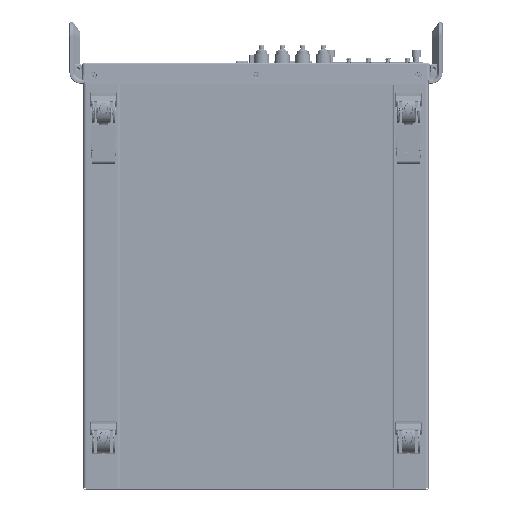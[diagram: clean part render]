
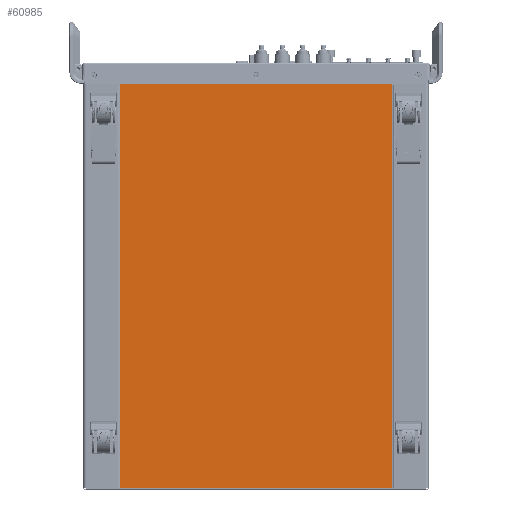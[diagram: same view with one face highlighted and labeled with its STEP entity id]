
A CAD part, front view. The second image highlights one B-rep face of the part: STEP entity #60985.
In plain terms, the highlighted planar face has unit normal (0, -1, 0).
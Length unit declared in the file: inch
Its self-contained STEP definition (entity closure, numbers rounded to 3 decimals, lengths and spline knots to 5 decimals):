
#58309=DIRECTION('',(-1.,0.,0.));
#58310=VECTOR('',#58309,13.25);
#58311=CARTESIAN_POINT('',(6.625,-2.545,-2.48));
#58312=LINE('',#58311,#58310);
#58357=DIRECTION('',(0.,0.,-1.));
#58358=VECTOR('',#58357,19.63);
#58359=CARTESIAN_POINT('',(-6.625,-2.545,17.15));
#58360=LINE('',#58359,#58358);
#58361=CARTESIAN_POINT('',(-6.563,-2.545,17.288));
#58362=DIRECTION('',(0.,-1.,0.));
#58363=DIRECTION('',(0.,0.,1.));
#58364=AXIS2_PLACEMENT_3D('',#58361,#58362,#58363);
#58366=DIRECTION('',(-1.,0.,0.));
#58367=VECTOR('',#58366,3.488);
#58368=CARTESIAN_POINT('',(-3.075,-2.545,17.35));
#58369=LINE('',#58368,#58367);
#58370=DIRECTION('',(0.,0.,1.));
#58371=VECTOR('',#58370,0.138);
#58372=CARTESIAN_POINT('',(-3.075,-2.545,17.35));
#58373=LINE('',#58372,#58371);
#58374=CARTESIAN_POINT('',(-3.013,-2.545,17.488));
#58375=DIRECTION('',(0.,-1.,0.));
#58376=DIRECTION('',(0.,0.,1.));
#58377=AXIS2_PLACEMENT_3D('',#58374,#58375,#58376);
#58379=DIRECTION('',(1.,0.,0.));
#58380=VECTOR('',#58379,0.376);
#58381=CARTESIAN_POINT('',(-3.013,-2.545,17.55));
#58382=LINE('',#58381,#58380);
#58383=CARTESIAN_POINT('',(-2.637,-2.545,17.488));
#58384=DIRECTION('',(0.,-1.,0.));
#58385=DIRECTION('',(1.,0.,0.));
#58386=AXIS2_PLACEMENT_3D('',#58383,#58384,#58385);
#58388=DIRECTION('',(0.,0.,-1.));
#58389=VECTOR('',#58388,0.138);
#58390=CARTESIAN_POINT('',(-2.575,-2.545,17.488));
#58391=LINE('',#58390,#58389);
#58392=DIRECTION('',(-1.,0.,0.));
#58393=VECTOR('',#58392,5.15);
#58394=CARTESIAN_POINT('',(2.575,-2.545,17.35));
#58395=LINE('',#58394,#58393);
#58396=DIRECTION('',(0.,0.,1.));
#58397=VECTOR('',#58396,0.138);
#58398=CARTESIAN_POINT('',(2.575,-2.545,17.35));
#58399=LINE('',#58398,#58397);
#58400=CARTESIAN_POINT('',(2.637,-2.545,17.488));
#58401=DIRECTION('',(0.,-1.,0.));
#58402=DIRECTION('',(0.,0.,1.));
#58403=AXIS2_PLACEMENT_3D('',#58400,#58401,#58402);
#58405=DIRECTION('',(1.,0.,0.));
#58406=VECTOR('',#58405,0.376);
#58407=CARTESIAN_POINT('',(2.637,-2.545,17.55));
#58408=LINE('',#58407,#58406);
#58409=CARTESIAN_POINT('',(3.013,-2.545,17.488));
#58410=DIRECTION('',(0.,-1.,0.));
#58411=DIRECTION('',(1.,0.,0.));
#58412=AXIS2_PLACEMENT_3D('',#58409,#58410,#58411);
#58414=DIRECTION('',(0.,0.,-1.));
#58415=VECTOR('',#58414,0.138);
#58416=CARTESIAN_POINT('',(3.075,-2.545,17.488));
#58417=LINE('',#58416,#58415);
#58418=DIRECTION('',(-1.,0.,0.));
#58419=VECTOR('',#58418,3.488);
#58420=CARTESIAN_POINT('',(6.563,-2.545,17.35));
#58421=LINE('',#58420,#58419);
#58422=CARTESIAN_POINT('',(6.563,-2.545,17.288));
#58423=DIRECTION('',(0.,-1.,0.));
#58424=DIRECTION('',(1.,0.,0.));
#58425=AXIS2_PLACEMENT_3D('',#58422,#58423,#58424);
#58427=DIRECTION('',(0.,0.,-1.));
#58428=VECTOR('',#58427,0.138);
#58429=CARTESIAN_POINT('',(6.625,-2.545,17.288));
#58430=LINE('',#58429,#58428);
#58431=DIRECTION('',(0.,0.,-1.));
#58432=VECTOR('',#58431,0.138);
#58433=CARTESIAN_POINT('',(-6.625,-2.545,17.288));
#58434=LINE('',#58433,#58432);
#58435=DIRECTION('',(0.,0.,1.));
#58436=VECTOR('',#58435,0.028);
#58437=CARTESIAN_POINT('',(2.961,-2.545,17.361));
#58438=LINE('',#58437,#58436);
#58439=CARTESIAN_POINT('',(2.825,-2.545,17.389));
#58440=DIRECTION('',(0.,-1.,0.));
#58441=DIRECTION('',(1.,0.,0.));
#58442=AXIS2_PLACEMENT_3D('',#58439,#58440,#58441);
#58444=DIRECTION('',(0.,0.,-1.));
#58445=VECTOR('',#58444,0.028);
#58446=CARTESIAN_POINT('',(2.689,-2.545,17.389));
#58447=LINE('',#58446,#58445);
#58448=CARTESIAN_POINT('',(2.825,-2.545,17.361));
#58449=DIRECTION('',(0.,-1.,0.));
#58450=DIRECTION('',(-1.,0.,0.));
#58451=AXIS2_PLACEMENT_3D('',#58448,#58449,#58450);
#58453=DIRECTION('',(0.,0.,1.));
#58454=VECTOR('',#58453,0.028);
#58455=CARTESIAN_POINT('',(-2.689,-2.545,17.361));
#58456=LINE('',#58455,#58454);
#58457=CARTESIAN_POINT('',(-2.825,-2.545,17.389));
#58458=DIRECTION('',(0.,-1.,0.));
#58459=DIRECTION('',(1.,0.,0.));
#58460=AXIS2_PLACEMENT_3D('',#58457,#58458,#58459);
#58462=DIRECTION('',(0.,0.,-1.));
#58463=VECTOR('',#58462,0.028);
#58464=CARTESIAN_POINT('',(-2.961,-2.545,17.389));
#58465=LINE('',#58464,#58463);
#58466=CARTESIAN_POINT('',(-2.825,-2.545,17.361));
#58467=DIRECTION('',(0.,-1.,0.));
#58468=DIRECTION('',(-1.,0.,0.));
#58469=AXIS2_PLACEMENT_3D('',#58466,#58467,#58468);
#58733=DIRECTION('',(0.,0.,1.));
#58734=VECTOR('',#58733,19.63);
#58735=CARTESIAN_POINT('',(6.625,-2.545,-2.48));
#58736=LINE('',#58735,#58734);
#60089=CARTESIAN_POINT('',(-6.625,-2.545,-2.48));
#60091=VERTEX_POINT('',#60089);
#60093=CARTESIAN_POINT('',(6.625,-2.545,-2.48));
#60095=VERTEX_POINT('',#60093);
#60161=CARTESIAN_POINT('',(6.625,-2.545,17.15));
#60163=VERTEX_POINT('',#60161);
#60171=CARTESIAN_POINT('',(-6.625,-2.545,17.15));
#60173=VERTEX_POINT('',#60171);
#60202=CARTESIAN_POINT('',(2.575,-2.545,17.35));
#60204=VERTEX_POINT('',#60202);
#60206=CARTESIAN_POINT('',(3.075,-2.545,17.35));
#60208=VERTEX_POINT('',#60206);
#60210=CARTESIAN_POINT('',(-3.075,-2.545,17.35));
#60212=VERTEX_POINT('',#60210);
#60214=CARTESIAN_POINT('',(-2.575,-2.545,17.35));
#60216=VERTEX_POINT('',#60214);
#60305=CARTESIAN_POINT('',(-6.563,-2.545,17.35));
#60306=CARTESIAN_POINT('',(-6.625,-2.545,17.288));
#60307=VERTEX_POINT('',#60305);
#60308=VERTEX_POINT('',#60306);
#60317=CARTESIAN_POINT('',(-3.013,-2.545,17.55));
#60318=VERTEX_POINT('',#60317);
#60319=CARTESIAN_POINT('',(-3.075,-2.545,17.488));
#60320=VERTEX_POINT('',#60319);
#60325=CARTESIAN_POINT('',(-2.575,-2.545,17.488));
#60326=VERTEX_POINT('',#60325);
#60327=CARTESIAN_POINT('',(-2.637,-2.545,17.55));
#60328=VERTEX_POINT('',#60327);
#60333=CARTESIAN_POINT('',(2.637,-2.545,17.55));
#60334=VERTEX_POINT('',#60333);
#60335=CARTESIAN_POINT('',(2.575,-2.545,17.488));
#60336=VERTEX_POINT('',#60335);
#60341=CARTESIAN_POINT('',(3.075,-2.545,17.488));
#60342=VERTEX_POINT('',#60341);
#60343=CARTESIAN_POINT('',(3.013,-2.545,17.55));
#60344=VERTEX_POINT('',#60343);
#60345=CARTESIAN_POINT('',(6.625,-2.545,17.288));
#60346=CARTESIAN_POINT('',(6.563,-2.545,17.35));
#60347=VERTEX_POINT('',#60345);
#60348=VERTEX_POINT('',#60346);
#60489=CARTESIAN_POINT('',(2.961,-2.545,17.361));
#60491=VERTEX_POINT('',#60489);
#60493=CARTESIAN_POINT('',(2.961,-2.545,17.389));
#60495=VERTEX_POINT('',#60493);
#60497=CARTESIAN_POINT('',(2.689,-2.545,17.389));
#60499=VERTEX_POINT('',#60497);
#60501=CARTESIAN_POINT('',(2.689,-2.545,17.361));
#60503=VERTEX_POINT('',#60501);
#60513=CARTESIAN_POINT('',(-2.689,-2.545,17.361));
#60515=VERTEX_POINT('',#60513);
#60517=CARTESIAN_POINT('',(-2.689,-2.545,17.389));
#60519=VERTEX_POINT('',#60517);
#60521=CARTESIAN_POINT('',(-2.961,-2.545,17.389));
#60523=VERTEX_POINT('',#60521);
#60525=CARTESIAN_POINT('',(-2.961,-2.545,17.361));
#60527=VERTEX_POINT('',#60525);
#60920=CARTESIAN_POINT('',(0.,-2.545,0.));
#60921=DIRECTION('',(0.,1.,0.));
#60922=DIRECTION('',(1.,0.,0.));
#60923=AXIS2_PLACEMENT_3D('',#60920,#60921,#60922);
#60924=PLANE('',#60923);
#60926=ORIENTED_EDGE('',*,*,#60925,.F.);
#60928=ORIENTED_EDGE('',*,*,#60927,.F.);
#60930=ORIENTED_EDGE('',*,*,#60929,.T.);
#60932=ORIENTED_EDGE('',*,*,#60931,.F.);
#60934=ORIENTED_EDGE('',*,*,#60933,.T.);
#60936=ORIENTED_EDGE('',*,*,#60935,.F.);
#60938=ORIENTED_EDGE('',*,*,#60937,.T.);
#60940=ORIENTED_EDGE('',*,*,#60939,.F.);
#60942=ORIENTED_EDGE('',*,*,#60941,.T.);
#60944=ORIENTED_EDGE('',*,*,#60943,.F.);
#60946=ORIENTED_EDGE('',*,*,#60945,.T.);
#60948=ORIENTED_EDGE('',*,*,#60947,.F.);
#60950=ORIENTED_EDGE('',*,*,#60949,.T.);
#60952=ORIENTED_EDGE('',*,*,#60951,.F.);
#60954=ORIENTED_EDGE('',*,*,#60953,.F.);
#60956=ORIENTED_EDGE('',*,*,#60955,.T.);
#60958=ORIENTED_EDGE('',*,*,#60957,.F.);
#60959=ORIENTED_EDGE('',*,*,#60843,.T.);
#60960=ORIENTED_EDGE('',*,*,#60912,.F.);
#60962=ORIENTED_EDGE('',*,*,#60961,.F.);
#60963=EDGE_LOOP('',(#60926,#60928,#60930,#60932,#60934,#60936,#60938,#60940,
#60942,#60944,#60946,#60948,#60950,#60952,#60954,#60956,#60958,#60959,#60960,
#60962));
#60964=FACE_OUTER_BOUND('',#60963,.F.);
#60966=ORIENTED_EDGE('',*,*,#60965,.T.);
#60968=ORIENTED_EDGE('',*,*,#60967,.T.);
#60970=ORIENTED_EDGE('',*,*,#60969,.T.);
#60972=ORIENTED_EDGE('',*,*,#60971,.T.);
#60973=EDGE_LOOP('',(#60966,#60968,#60970,#60972));
#60974=FACE_BOUND('',#60973,.F.);
#60976=ORIENTED_EDGE('',*,*,#60975,.T.);
#60978=ORIENTED_EDGE('',*,*,#60977,.T.);
#60980=ORIENTED_EDGE('',*,*,#60979,.T.);
#60982=ORIENTED_EDGE('',*,*,#60981,.T.);
#60983=EDGE_LOOP('',(#60976,#60978,#60980,#60982));
#60984=FACE_BOUND('',#60983,.F.);
#60985=ADVANCED_FACE('',(#60964,#60974,#60984),#60924,.F.);
#58365=CIRCLE('',#58364,0.062);
#58378=CIRCLE('',#58377,0.062);
#58387=CIRCLE('',#58386,0.062);
#58404=CIRCLE('',#58403,0.062);
#58413=CIRCLE('',#58412,0.062);
#58426=CIRCLE('',#58425,0.062);
#58443=CIRCLE('',#58442,0.136);
#58452=CIRCLE('',#58451,0.136);
#58461=CIRCLE('',#58460,0.136);
#58470=CIRCLE('',#58469,0.136);
#60843=EDGE_CURVE('',#60095,#60091,#58312,.T.);
#60912=EDGE_CURVE('',#60173,#60091,#58360,.T.);
#60925=EDGE_CURVE('',#60307,#60308,#58365,.T.);
#60927=EDGE_CURVE('',#60212,#60307,#58369,.T.);
#60929=EDGE_CURVE('',#60212,#60320,#58373,.T.);
#60931=EDGE_CURVE('',#60318,#60320,#58378,.T.);
#60933=EDGE_CURVE('',#60318,#60328,#58382,.T.);
#60935=EDGE_CURVE('',#60326,#60328,#58387,.T.);
#60937=EDGE_CURVE('',#60326,#60216,#58391,.T.);
#60939=EDGE_CURVE('',#60204,#60216,#58395,.T.);
#60941=EDGE_CURVE('',#60204,#60336,#58399,.T.);
#60943=EDGE_CURVE('',#60334,#60336,#58404,.T.);
#60945=EDGE_CURVE('',#60334,#60344,#58408,.T.);
#60947=EDGE_CURVE('',#60342,#60344,#58413,.T.);
#60949=EDGE_CURVE('',#60342,#60208,#58417,.T.);
#60951=EDGE_CURVE('',#60348,#60208,#58421,.T.);
#60953=EDGE_CURVE('',#60347,#60348,#58426,.T.);
#60955=EDGE_CURVE('',#60347,#60163,#58430,.T.);
#60957=EDGE_CURVE('',#60095,#60163,#58736,.T.);
#60961=EDGE_CURVE('',#60308,#60173,#58434,.T.);
#60965=EDGE_CURVE('',#60491,#60495,#58438,.T.);
#60967=EDGE_CURVE('',#60495,#60499,#58443,.T.);
#60969=EDGE_CURVE('',#60499,#60503,#58447,.T.);
#60971=EDGE_CURVE('',#60503,#60491,#58452,.T.);
#60975=EDGE_CURVE('',#60515,#60519,#58456,.T.);
#60977=EDGE_CURVE('',#60519,#60523,#58461,.T.);
#60979=EDGE_CURVE('',#60523,#60527,#58465,.T.);
#60981=EDGE_CURVE('',#60527,#60515,#58470,.T.);
